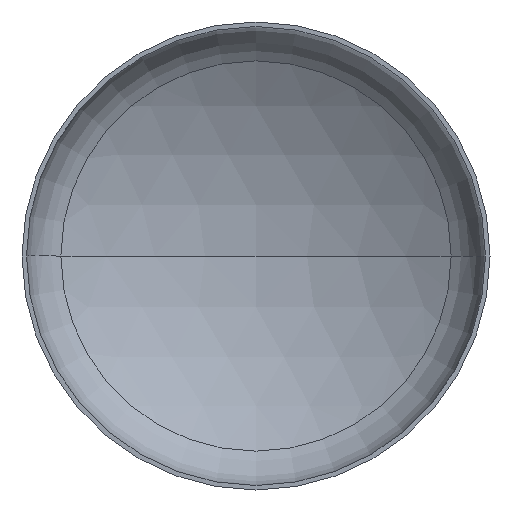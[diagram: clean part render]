
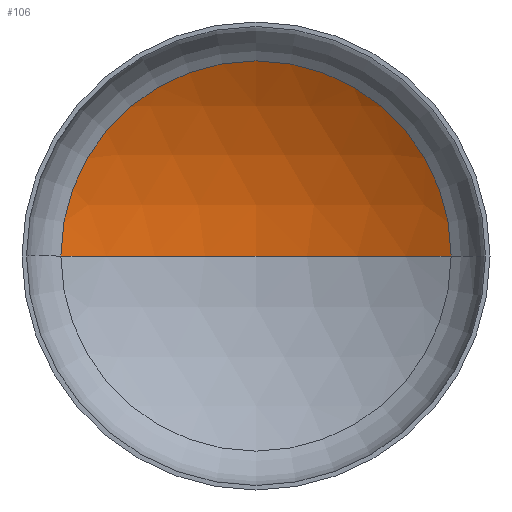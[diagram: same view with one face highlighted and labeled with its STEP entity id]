
A CAD part, front view. The second image highlights one B-rep face of the part: STEP entity #106.
In plain terms, the highlighted spherical face has radius 2400 mm.
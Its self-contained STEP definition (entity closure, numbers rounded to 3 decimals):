
#13 = EDGE_LOOP ( 'NONE', ( #80, #69, #25 ) ) ;
#15 = DIRECTION ( 'NONE',  ( -1., 0., 0. ) ) ;
#18 = DIRECTION ( 'NONE',  ( 0., 0., -1. ) ) ;
#25 = ORIENTED_EDGE ( 'NONE', *, *, #153, .T. ) ;
#54 = VERTEX_POINT ( 'NONE', #282 ) ;
#63 = VERTEX_POINT ( 'NONE', #284 ) ;
#69 = ORIENTED_EDGE ( 'NONE', *, *, #155, .T. ) ;
#76 = FACE_OUTER_BOUND ( 'NONE', #13, .T. ) ;
#80 = ORIENTED_EDGE ( 'NONE', *, *, #157, .F. ) ;
#83 = AXIS2_PLACEMENT_3D ( 'NONE', #221, #176, #309 ) ;
#87 = AXIS2_PLACEMENT_3D ( 'NONE', #393, #18, #15 ) ;
#95 = AXIS2_PLACEMENT_3D ( 'NONE', #244, #398, #266 ) ;
#106 = ADVANCED_FACE ( 'NONE', ( #76 ), #365, .F. ) ;
#113 = VERTEX_POINT ( 'NONE', #239 ) ;
#122 = AXIS2_PLACEMENT_3D ( 'NONE', #254, #245, #237 ) ;
#132 = CIRCLE ( 'NONE', #87, 2400. ) ;
#142 = CIRCLE ( 'NONE', #83, 2400. ) ;
#153 = EDGE_CURVE ( 'NONE', #113, #63, #379, .T. ) ;
#155 = EDGE_CURVE ( 'NONE', #54, #113, #132, .T. ) ;
#157 = EDGE_CURVE ( 'NONE', #54, #63, #142, .T. ) ;
#176 = DIRECTION ( 'NONE',  ( 0., 0., 1. ) ) ;
#221 = CARTESIAN_POINT ( 'NONE',  ( 0., -1565.741, 0. ) ) ;
#237 = DIRECTION ( 'NONE',  ( -1., 0., 0. ) ) ;
#239 = CARTESIAN_POINT ( 'NONE',  ( 1250.722, 482.598, 0. ) ) ;
#244 = CARTESIAN_POINT ( 'NONE',  ( 0., 482.598, 0. ) ) ;
#245 = DIRECTION ( 'NONE',  ( 0., 0., -1. ) ) ;
#254 = CARTESIAN_POINT ( 'NONE',  ( 0., -1565.741, 0. ) ) ;
#266 = DIRECTION ( 'NONE',  ( 1., 0., 0. ) ) ;
#282 = CARTESIAN_POINT ( 'NONE',  ( 0., 834.259, 0. ) ) ;
#284 = CARTESIAN_POINT ( 'NONE',  ( -1250.722, 482.598, 0. ) ) ;
#309 = DIRECTION ( 'NONE',  ( 1., 0., 0. ) ) ;
#365 = SPHERICAL_SURFACE ( 'NONE', #122, 2400. ) ;
#379 = CIRCLE ( 'NONE', #95, 1250.722 ) ;
#393 = CARTESIAN_POINT ( 'NONE',  ( 0., -1565.741, 0. ) ) ;
#398 = DIRECTION ( 'NONE',  ( 0., -1., 0. ) ) ;
